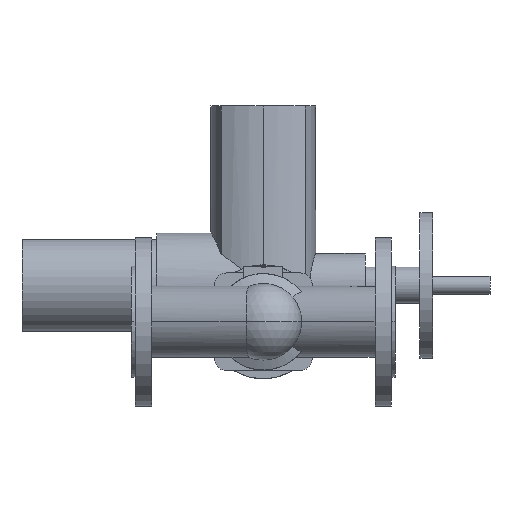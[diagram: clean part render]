
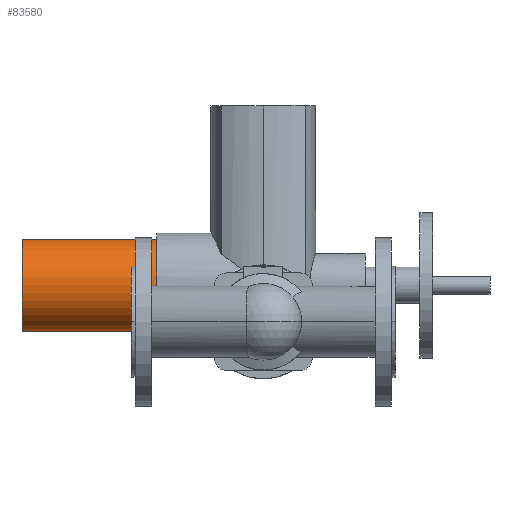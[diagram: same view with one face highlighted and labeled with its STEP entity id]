
A CAD part, front view. The second image highlights one B-rep face of the part: STEP entity #83580.
In plain terms, the highlighted cylindrical face has radius 50.5 mm (diameter 101 mm), a partial arc.
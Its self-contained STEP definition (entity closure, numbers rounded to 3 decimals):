
#66800=CARTESIAN_POINT('',(-46.,435.,40.));
#66810=DIRECTION('',(1.,0.,0.));
#66820=DIRECTION('',(0.,0.,-1.));
#66830=AXIS2_PLACEMENT_3D('',#66800,#66810,#66820);
#66840=CYLINDRICAL_SURFACE('',#66830,50.5);
#66850=CARTESIAN_POINT('',(-46.,435.,90.5));
#66860=DIRECTION('',(1.,0.,0.));
#66870=VECTOR('',#66860,1.);
#66880=LINE('',#66850,#66870);
#66890=CARTESIAN_POINT('',(-120.,435.,90.5));
#66900=VERTEX_POINT('',#66890);
#66910=CARTESIAN_POINT('',(28.,435.,90.5));
#66920=VERTEX_POINT('',#66910);
#66930=EDGE_CURVE('',#66900,#66920,#66880,.T.);
#66950=CARTESIAN_POINT('',(-120.,435.,40.));
#66960=DIRECTION('',(-1.,0.,0.));
#66970=DIRECTION('',(0.,0.,-1.));
#66980=AXIS2_PLACEMENT_3D('',#66950,#66960,#66970);
#66990=CIRCLE('',#66980,50.5);
#67000=CARTESIAN_POINT('',(-120.,435.,-10.5));
#67010=VERTEX_POINT('',#67000);
#67040=CARTESIAN_POINT('',(-46.,435.,-10.5));
#67050=DIRECTION('',(1.,0.,0.));
#67060=VECTOR('',#67050,1.);
#67070=LINE('',#67040,#67060);
#67080=CARTESIAN_POINT('',(28.,435.,-10.5));
#67090=VERTEX_POINT('',#67080);
#67100=EDGE_CURVE('',#67010,#67090,#67070,.T.);
#67120=CARTESIAN_POINT('',(28.,435.,40.));
#67130=DIRECTION('',(-1.,0.,0.));
#67140=DIRECTION('',(0.,0.,-1.));
#67150=AXIS2_PLACEMENT_3D('',#67120,#67130,#67140);
#67160=CIRCLE('',#67150,50.5);
#80570=EDGE_CURVE('',#67090,#66920,#67160,.T.);
#81380=EDGE_CURVE('',#67010,#66900,#66990,.T.);
#83520=ORIENTED_EDGE('',*,*,#81380,.F.);
#83530=ORIENTED_EDGE('',*,*,#66930,.F.);
#83540=ORIENTED_EDGE('',*,*,#80570,.T.);
#83550=ORIENTED_EDGE('',*,*,#67100,.T.);
#83560=EDGE_LOOP('',(#83550,#83540,#83530,#83520));
#83570=FACE_OUTER_BOUND('',#83560,.T.);
#83580=ADVANCED_FACE('',(#83570),#66840,.T.);
